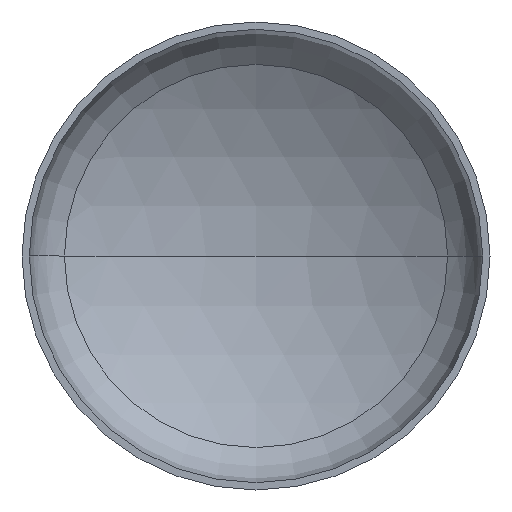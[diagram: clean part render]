
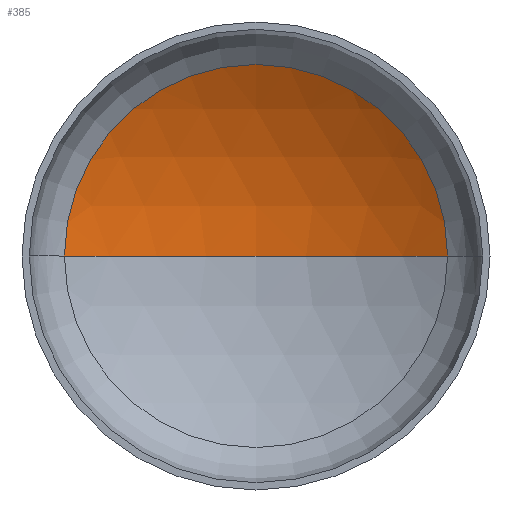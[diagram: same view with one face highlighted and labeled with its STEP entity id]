
A CAD part, front view. The second image highlights one B-rep face of the part: STEP entity #385.
In plain terms, the highlighted spherical face has radius 2240 mm.
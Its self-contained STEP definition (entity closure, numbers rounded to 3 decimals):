
#1 = AXIS2_PLACEMENT_3D ( 'NONE', #294, #132, #299 ) ;
#23 = AXIS2_PLACEMENT_3D ( 'NONE', #152, #272, #312 ) ;
#27 = AXIS2_PLACEMENT_3D ( 'NONE', #406, #238, #197 ) ;
#33 = ORIENTED_EDGE ( 'NONE', *, *, #310, .T. ) ;
#43 = ORIENTED_EDGE ( 'NONE', *, *, #316, .T. ) ;
#47 = VERTEX_POINT ( 'NONE', #277 ) ;
#50 = VERTEX_POINT ( 'NONE', #97 ) ;
#60 = EDGE_LOOP ( 'NONE', ( #85, #43, #33 ) ) ;
#76 = CIRCLE ( 'NONE', #23, 2240. ) ;
#85 = ORIENTED_EDGE ( 'NONE', *, *, #358, .F. ) ;
#97 = CARTESIAN_POINT ( 'NONE',  ( 0., 824.807, 0. ) ) ;
#132 = DIRECTION ( 'NONE',  ( 0., 0., 1. ) ) ;
#133 = AXIS2_PLACEMENT_3D ( 'NONE', #343, #392, #154 ) ;
#152 = CARTESIAN_POINT ( 'NONE',  ( 0., -1415.193, 0. ) ) ;
#154 = DIRECTION ( 'NONE',  ( -1., 0., 0. ) ) ;
#171 = CIRCLE ( 'NONE', #1, 2240. ) ;
#197 = DIRECTION ( 'NONE',  ( 1., 0., 0. ) ) ;
#238 = DIRECTION ( 'NONE',  ( 0., -1., 0. ) ) ;
#247 = CARTESIAN_POINT ( 'NONE',  ( -1145.989, 509.466, 0. ) ) ;
#272 = DIRECTION ( 'NONE',  ( 0., 0., -1. ) ) ;
#276 = SPHERICAL_SURFACE ( 'NONE', #133, 2240. ) ;
#277 = CARTESIAN_POINT ( 'NONE',  ( 1145.989, 509.466, 0. ) ) ;
#284 = FACE_OUTER_BOUND ( 'NONE', #60, .T. ) ;
#294 = CARTESIAN_POINT ( 'NONE',  ( 0., -1415.193, 0. ) ) ;
#299 = DIRECTION ( 'NONE',  ( 1., 0., 0. ) ) ;
#310 = EDGE_CURVE ( 'NONE', #47, #365, #369, .T. ) ;
#312 = DIRECTION ( 'NONE',  ( -1., 0., 0. ) ) ;
#316 = EDGE_CURVE ( 'NONE', #50, #47, #76, .T. ) ;
#343 = CARTESIAN_POINT ( 'NONE',  ( 0., -1415.193, 0. ) ) ;
#358 = EDGE_CURVE ( 'NONE', #50, #365, #171, .T. ) ;
#365 = VERTEX_POINT ( 'NONE', #247 ) ;
#369 = CIRCLE ( 'NONE', #27, 1145.989 ) ;
#385 = ADVANCED_FACE ( 'NONE', ( #284 ), #276, .F. ) ;
#392 = DIRECTION ( 'NONE',  ( 0., 0., -1. ) ) ;
#406 = CARTESIAN_POINT ( 'NONE',  ( 0., 509.466, 0. ) ) ;
